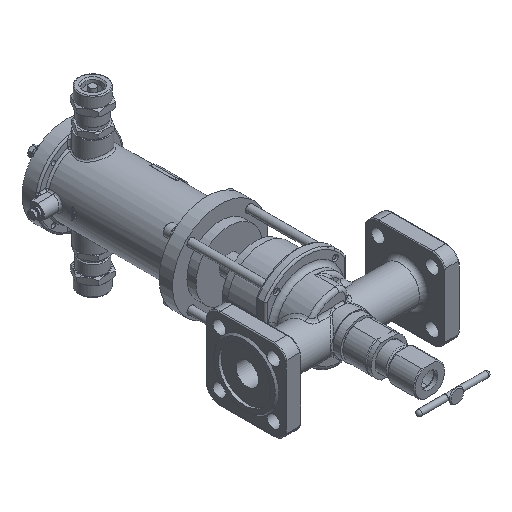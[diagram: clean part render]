
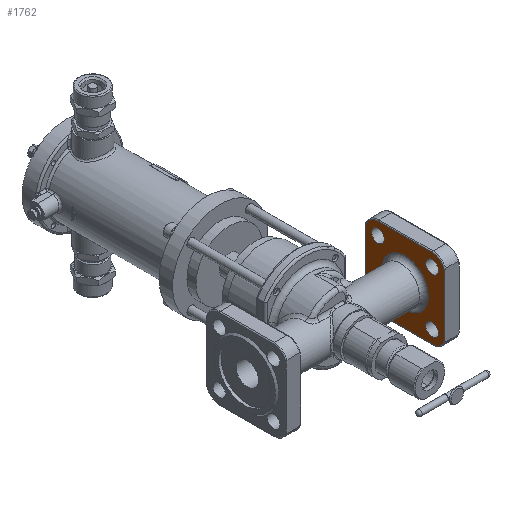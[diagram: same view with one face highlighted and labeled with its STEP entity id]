
A CAD part, isometric view. The second image highlights one B-rep face of the part: STEP entity #1762.
In plain terms, the highlighted planar face has unit normal (-1, 0, 0).
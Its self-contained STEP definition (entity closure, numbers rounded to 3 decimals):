
#1762=ADVANCED_FACE('',(#19553,#19555,#19557,#19559,#19561,#19563),#19565,.T.);
#19553=FACE_BOUND('',#19554,.T.);
#19554=EDGE_LOOP('',(#30559));
#19555=FACE_BOUND('',#19556,.T.);
#19556=EDGE_LOOP('',(#30560));
#19557=FACE_BOUND('',#19558,.T.);
#19558=EDGE_LOOP('',(#30561));
#19559=FACE_BOUND('',#19560,.T.);
#19560=EDGE_LOOP('',(#30562));
#19561=FACE_BOUND('',#19562,.T.);
#19562=EDGE_LOOP('',(#30563));
#19563=FACE_OUTER_BOUND('',#19564,.T.);
#19564=EDGE_LOOP('',(#30564,#30565,#30566,#30567,#30568,#30569,#30570,#30571));
#19565=PLANE('',#19566);
#19566=AXIS2_PLACEMENT_3D('',#19567,#19568,#19569);
#19567=CARTESIAN_POINT('',(80.,0.,0.));
#19568=DIRECTION('',(-1.,0.,0.));
#19569=DIRECTION('',(0.,1.,0.));
#30559=ORIENTED_EDGE('',*,*,#38034,.F.);
#30560=ORIENTED_EDGE('',*,*,#38081,.T.);
#30561=ORIENTED_EDGE('',*,*,#38082,.T.);
#30562=ORIENTED_EDGE('',*,*,#38083,.T.);
#30563=ORIENTED_EDGE('',*,*,#38084,.T.);
#30564=ORIENTED_EDGE('',*,*,#38085,.T.);
#30565=ORIENTED_EDGE('',*,*,#38086,.T.);
#30566=ORIENTED_EDGE('',*,*,#38087,.T.);
#30567=ORIENTED_EDGE('',*,*,#38088,.T.);
#30568=ORIENTED_EDGE('',*,*,#38089,.T.);
#30569=ORIENTED_EDGE('',*,*,#38090,.T.);
#30570=ORIENTED_EDGE('',*,*,#38091,.T.);
#30571=ORIENTED_EDGE('',*,*,#38092,.T.);
#38034=EDGE_CURVE('',#45892,#45892,#45894,.T.);
#38081=EDGE_CURVE('',#45963,#45963,#45964,.T.);
#38082=EDGE_CURVE('',#45965,#45965,#45966,.T.);
#38083=EDGE_CURVE('',#45967,#45967,#45968,.T.);
#38084=EDGE_CURVE('',#45969,#45969,#45970,.T.);
#38085=EDGE_CURVE('',#45971,#45972,#45973,.F.);
#38086=EDGE_CURVE('',#45972,#45974,#45975,.F.);
#38087=EDGE_CURVE('',#45974,#45976,#45977,.T.);
#38088=EDGE_CURVE('',#45976,#45978,#45979,.F.);
#38089=EDGE_CURVE('',#45978,#45980,#45981,.T.);
#38090=EDGE_CURVE('',#45980,#45982,#45983,.F.);
#38091=EDGE_CURVE('',#45982,#45984,#45985,.T.);
#38092=EDGE_CURVE('',#45984,#45971,#45986,.F.);
#45892=VERTEX_POINT('',#71819);
#45894=CIRCLE('',#71824,26.);
#45963=VERTEX_POINT('',#72239);
#45964=CIRCLE('',#72240,7.);
#45965=VERTEX_POINT('',#72244);
#45966=CIRCLE('',#72245,7.);
#45967=VERTEX_POINT('',#72249);
#45968=CIRCLE('',#72250,7.);
#45969=VERTEX_POINT('',#72254);
#45970=CIRCLE('',#72255,7.);
#45971=VERTEX_POINT('',#72259);
#45972=VERTEX_POINT('',#72260);
#45973=LINE('',#72261,#72262);
#45974=VERTEX_POINT('',#72264);
#45975=CIRCLE('',#72265,14.);
#45976=VERTEX_POINT('',#72269);
#45977=LINE('',#72270,#72271);
#45978=VERTEX_POINT('',#72273);
#45979=CIRCLE('',#72274,14.);
#45980=VERTEX_POINT('',#72278);
#45981=LINE('',#72279,#72280);
#45982=VERTEX_POINT('',#72282);
#45983=CIRCLE('',#72283,14.);
#45984=VERTEX_POINT('',#72287);
#45985=LINE('',#72288,#72289);
#45986=CIRCLE('',#72291,14.);
#71819=CARTESIAN_POINT('',(80.,26.,0.));
#71824=AXIS2_PLACEMENT_3D('',#71825,#71826,#71827);
#71825=CARTESIAN_POINT('',(80.,0.,0.));
#71826=DIRECTION('',(-1.,0.,0.));
#71827=DIRECTION('',(0.,1.,0.));
#72239=CARTESIAN_POINT('',(80.,30.052,37.052));
#72240=AXIS2_PLACEMENT_3D('',#72241,#72242,#72243);
#72241=CARTESIAN_POINT('',(80.,30.052,30.052));
#72242=DIRECTION('',(1.,0.,0.));
#72243=DIRECTION('',(0.,0.,1.));
#72244=CARTESIAN_POINT('',(80.,-30.052,37.052));
#72245=AXIS2_PLACEMENT_3D('',#72246,#72247,#72248);
#72246=CARTESIAN_POINT('',(80.,-30.052,30.052));
#72247=DIRECTION('',(1.,0.,0.));
#72248=DIRECTION('',(0.,0.,1.));
#72249=CARTESIAN_POINT('',(80.,-30.052,-23.052));
#72250=AXIS2_PLACEMENT_3D('',#72251,#72252,#72253);
#72251=CARTESIAN_POINT('',(80.,-30.052,-30.052));
#72252=DIRECTION('',(1.,0.,0.));
#72253=DIRECTION('',(0.,0.,1.));
#72254=CARTESIAN_POINT('',(80.,30.052,-23.052));
#72255=AXIS2_PLACEMENT_3D('',#72256,#72257,#72258);
#72256=CARTESIAN_POINT('',(80.,30.052,-30.052));
#72257=DIRECTION('',(1.,0.,0.));
#72258=DIRECTION('',(0.,0.,1.));
#72259=CARTESIAN_POINT('',(80.,-44.,-30.));
#72260=CARTESIAN_POINT('',(80.,-44.,30.));
#72261=CARTESIAN_POINT('',(80.,-44.,30.));
#72262=VECTOR('',#72263,1.);
#72263=DIRECTION('',(0.,0.,-1.));
#72264=CARTESIAN_POINT('',(80.,-30.,44.));
#72265=AXIS2_PLACEMENT_3D('',#72266,#72267,#72268);
#72266=CARTESIAN_POINT('',(80.,-30.,30.));
#72267=DIRECTION('',(1.,0.,0.));
#72268=DIRECTION('',(0.,0.,1.));
#72269=CARTESIAN_POINT('',(80.,30.,44.));
#72270=CARTESIAN_POINT('',(80.,-30.,44.));
#72271=VECTOR('',#72272,1.);
#72272=DIRECTION('',(0.,1.,0.));
#72273=CARTESIAN_POINT('',(80.,44.,30.));
#72274=AXIS2_PLACEMENT_3D('',#72275,#72276,#72277);
#72275=CARTESIAN_POINT('',(80.,30.,30.));
#72276=DIRECTION('',(1.,0.,0.));
#72277=DIRECTION('',(0.,1.,0.));
#72278=CARTESIAN_POINT('',(80.,44.,-30.));
#72279=CARTESIAN_POINT('',(80.,44.,30.));
#72280=VECTOR('',#72281,1.);
#72281=DIRECTION('',(0.,0.,-1.));
#72282=CARTESIAN_POINT('',(80.,30.,-44.));
#72283=AXIS2_PLACEMENT_3D('',#72284,#72285,#72286);
#72284=CARTESIAN_POINT('',(80.,30.,-30.));
#72285=DIRECTION('',(1.,0.,0.));
#72286=DIRECTION('',(0.,0.,-1.));
#72287=CARTESIAN_POINT('',(80.,-30.,-44.));
#72288=CARTESIAN_POINT('',(80.,30.,-44.));
#72289=VECTOR('',#72290,1.);
#72290=DIRECTION('',(0.,-1.,0.));
#72291=AXIS2_PLACEMENT_3D('',#72292,#72293,#72294);
#72292=CARTESIAN_POINT('',(80.,-30.,-30.));
#72293=DIRECTION('',(1.,0.,0.));
#72294=DIRECTION('',(0.,-1.,0.));
